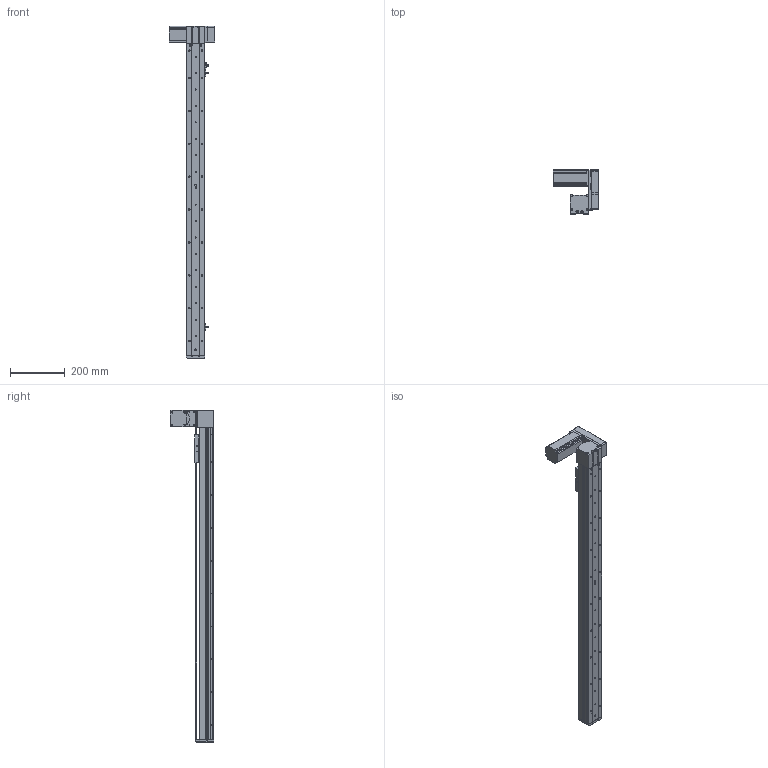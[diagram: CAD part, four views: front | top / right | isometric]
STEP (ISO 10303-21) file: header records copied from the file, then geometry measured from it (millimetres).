
FILE_DESCRIPTION (( 'STEP AP214' ), '1' );
FILE_NAME ('KSD68BS-S950-MLU-CM.STEP', '2019-11-06T06:51:47', ( '微软用户' ), ( '微软中国' ), 'SwSTEP 2.0', 'SolidWorks 2014', '' );
FILE_SCHEMA (( 'AUTOMOTIVE_DESIGN' ));
Length unit declared in the file: millimetre
Products named in the file (11): 悵誘欶奻狟殏; 68宽马达安装板连板上折同步带; 68宽单导轨半封闭同步带主动轮座左; 68单导轨同步带半封闭端板; KSD68BS 950俴最裔啣圉猾敕; 覜茼え68遵圉猾敕; KSD68BS半封闭同步带传动导轨座; U倰嫖萇EEㄜSX672; 台达ECMA－C20604AS伺服电机（400W); KSD68BS 950俴最菁啣圉猾敕; KSD68BS-S950-MLU-CM
Assembly tree (12 placements, depth 2):
  KSD68BS-S950-MLU-CM
    KSD68BS 950俴最菁啣圉猾敕
    台达ECMA－C20604AS伺服电机（400W)
    U倰嫖萇EEㄜSX672  x3
    KSD68BS半封闭同步带传动导轨座
    覜茼え68遵圉猾敕
    KSD68BS 950俴最裔啣圉猾敕
    68单导轨同步带半封闭端板
    68宽单导轨半封闭同步带主动轮座左
    68宽马达安装板连板上折同步带
    悵誘欶奻狟殏
Bounding box: 167.2 x 159.5 x 1212 mm (x, y, z)
Volume: 2307578.4 mm3; surface area: 809868.2 mm2
Topology: 13 solids, 13 shells, 1404 faces, 4044 edges, 2630 vertices
Faces by surface type: cylinder 706, plane 615, cone 83
Entity records: 52070 total; most frequent: CARTESIAN_POINT 10014, ORIENTED_EDGE 6840, DIRECTION 6738, EDGE_CURVE 3420, AXIS2_PLACEMENT_3D 2418, VERTEX_POINT 2254, VECTOR 1902, LINE 1902
